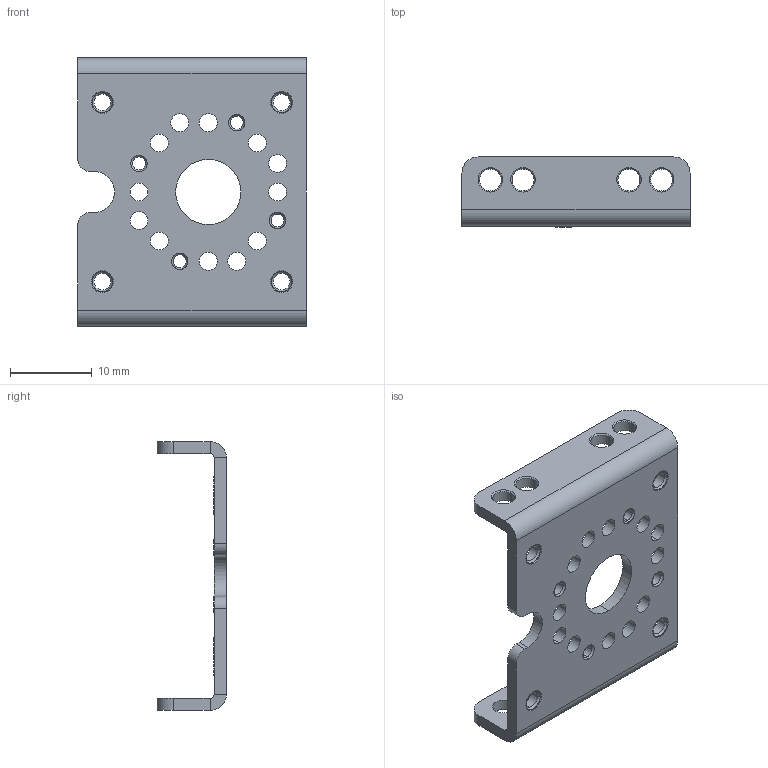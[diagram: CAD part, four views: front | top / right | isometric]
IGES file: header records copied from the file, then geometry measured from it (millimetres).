
Start section:  PTC IGES file: of-28s.igs
Global section: file name: of-28s.igs; native system: Pro/ENGINEER by Parametric Technology Corporation; preprocessor: 2006170; author: bono; organization: Unknown; date: 20061129.192124; units: millimetre
Bounding box: 28 x 8.55 x 33 mm (x, y, z)
Surface area: 3169.9 mm2 (no closed solid volume)
Topology: 0 solids, 0 shells, 178 faces, 1200 edges, 1376 vertices
Faces by surface type: revolution 157, bspline 21
